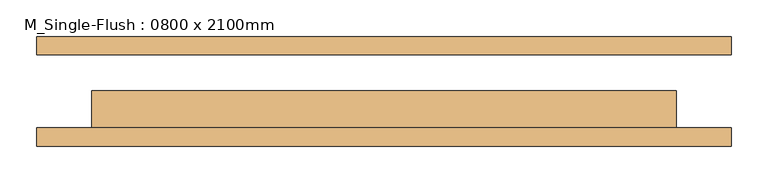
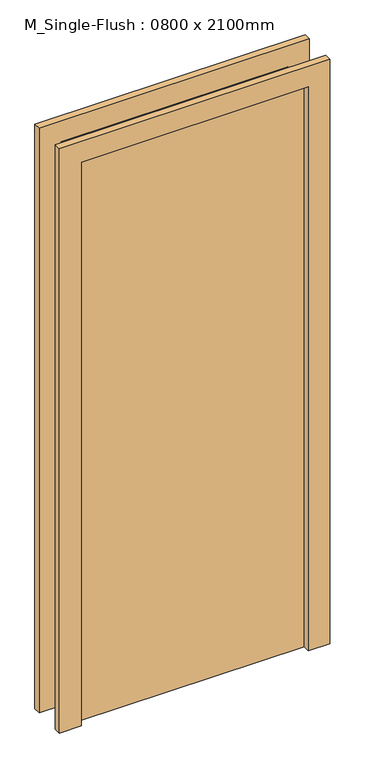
"""IFC4 building model written with IfcOpenShell, lengths in millimetres: door geometry, M_Single-Flush : 0800 x 2100mm."""

import ifcopenshell
import ifcopenshell.guid

model = None  # the IFC model being written
_history = None  # IfcOwnerHistory: only IFC2X3 demands one
_inside = {}  # id of a spatial element -> (the spatial element, [elements in it])
_under = {}  # id of a project, library or spatial element -> (it, [spatial elements below it])
_declared = {}  # id of a project -> (the project, [libraries it declares])
_typed = {}  # id of a type object -> (the type object, [elements of that type])
_made_of = {}  # id of a material, layer set ... -> (it, [elements and type objects made of it])


def new_model(schema):
    """Start an empty IFC model of exactly this schema.

    Asked for "IFC4X3", IfcOpenShell would pick the latest addendum, in which some entities
    have other attributes; the version numbers below select the first issue.
    IFC2X3 requires an IfcOwnerHistory on every rooted entity: one is made here for all.
    """
    global model, _history
    if schema == "IFC4X3":
        model = ifcopenshell.file(schema_version=(4, 3, 0, 0))
    else:
        model = ifcopenshell.file(schema=schema)
    _inside.clear()
    _under.clear()
    _declared.clear()
    _typed.clear()
    _made_of.clear()
    _history = None
    if model.schema == "IFC2X3":
        org = make("IfcOrganization", Name="unknown")
        user = make(
            "IfcPersonAndOrganization",
            ThePerson=make("IfcPerson", FamilyName="unknown"),
            TheOrganization=org,
        )
        app = make(
            "IfcApplication",
            ApplicationDeveloper=org,
            Version="unknown",
            ApplicationFullName="unknown",
            ApplicationIdentifier="unknown",
        )
        _history = make(
            "IfcOwnerHistory",
            OwningUser=user,
            OwningApplication=app,
            ChangeAction="ADDED",
            CreationDate=0,
        )
    return model


def make(cls, **values):
    """One entity of the class cls with the attributes given. An attribute that is None is left unset."""
    return model.create_entity(
        cls, **{name: value for name, value in values.items() if value is not None}
    )


def rooted(cls, **values):
    """An entity with a GlobalId (a new one), such as an element, a storey or a relation."""
    return make(cls, GlobalId=ifcopenshell.guid.new(), OwnerHistory=_history, **values)


def si_unit(unit_type, name, prefix=None):
    """IfcSIUnit, for example si_unit("LENGTHUNIT", "METRE", prefix="MILLI")."""
    return make("IfcSIUnit", UnitType=unit_type, Prefix=prefix, Name=name)


def assignment(units):
    """IfcUnitAssignment: the units of a project."""
    return None if units is None else make("IfcUnitAssignment", Units=units)


def point(xyz):
    """IfcCartesianPoint."""
    return None if xyz is None else make("IfcCartesianPoint", Coordinates=xyz)


def direction(xyz):
    """IfcDirection."""
    return None if xyz is None else make("IfcDirection", DirectionRatios=xyz)


def frame(location, z_axis=None, x_axis=None):
    """IfcAxis2Placement3D, a coordinate frame: its origin and axes. An axis left out is left unset."""
    return make(
        "IfcAxis2Placement3D",
        Location=point(location),
        Axis=direction(z_axis),
        RefDirection=direction(x_axis),
    )


def origin():
    """The frame at (0, 0, 0) with its axes left unset."""
    return frame((0.0, 0.0, 0.0))


def origin_with_axes():
    """The frame at (0, 0, 0) with the z axis (0, 0, 1) and the x axis (1, 0, 0) written out."""
    return frame((0.0, 0.0, 0.0), z_axis=(0.0, 0.0, 1.0), x_axis=(1.0, 0.0, 0.0))


def place(relative_to, where):
    """IfcLocalPlacement: puts the frame where relative to a parent placement (None: the world)."""
    return make(
        "IfcLocalPlacement", PlacementRelTo=relative_to, RelativePlacement=where
    )


def context(
    kind, dimensions, precision=None, world=None, true_north=None, identifier=None
):
    """IfcGeometricRepresentationContext, for example the 3D "Model" context."""
    return make(
        "IfcGeometricRepresentationContext",
        ContextIdentifier=identifier,
        ContextType=kind,
        CoordinateSpaceDimension=dimensions,
        Precision=precision,
        WorldCoordinateSystem=world,
        TrueNorth=true_north,
    )


def project(units=None, contexts=None):
    """IfcProject with its units and contexts."""
    return rooted(
        "IfcProject",
        Name="project",
        RepresentationContexts=contexts,
        UnitsInContext=assignment(units),
    )


def spatial(cls, under=None, at=None, **own):
    """A site, building, storey or space (cls), placed at a placement, below another one or the project."""
    s = rooted(cls, ObjectPlacement=at, **own)
    if under is not None:
        _under.setdefault(under.id(), (under, []))[1].append(s)
    return s


def polyline(points):
    """IfcPolyline through the points."""
    return make("IfcPolyline", Points=[point(p) for p in points])


def outline(outer, holes=None, kind="AREA"):
    """IfcArbitraryClosedProfileDef: a profile drawn as a closed curve; with holes, ...WithVoids."""
    if holes is None:
        return make("IfcArbitraryClosedProfileDef", ProfileType=kind, OuterCurve=outer)
    return make(
        "IfcArbitraryProfileDefWithVoids",
        ProfileType=kind,
        OuterCurve=outer,
        InnerCurves=holes,
    )


def extrude(swept, where, along, depth):
    """IfcExtrudedAreaSolid: the profile swept, set in the frame where, extruded along a direction by depth."""
    return make(
        "IfcExtrudedAreaSolid",
        SweptArea=swept,
        Position=where,
        ExtrudedDirection=direction(along),
        Depth=depth,
    )


def shape(context_of_items, identifier, shape_type, items):
    """IfcShapeRepresentation: the items that make up one representation, for example the "Body"."""
    return make(
        "IfcShapeRepresentation",
        ContextOfItems=context_of_items,
        RepresentationIdentifier=identifier,
        RepresentationType=shape_type,
        Items=items,
    )


def source(mapping_origin, context_of_items, identifier, shape_type, items):
    """IfcRepresentationMap: a shape defined once, which mapped items show again and again."""
    return make(
        "IfcRepresentationMap",
        MappingOrigin=mapping_origin,
        MappedRepresentation=shape(context_of_items, identifier, shape_type, items),
    )


def transform(
    local_origin,
    x_axis=None,
    y_axis=None,
    z_axis=None,
    scale=None,
    scale2=None,
    scale3=None,
    uniform=True,
):
    """IfcCartesianTransformationOperator3D, or its non-uniform kind. x_axis, y_axis, z_axis: its Axis1, 2, 3."""
    if uniform:
        return make(
            "IfcCartesianTransformationOperator3D",
            Axis1=direction(x_axis),
            Axis2=direction(y_axis),
            LocalOrigin=point(local_origin),
            Scale=scale,
            Axis3=direction(z_axis),
        )
    return make(
        "IfcCartesianTransformationOperator3DnonUniform",
        Axis1=direction(x_axis),
        Axis2=direction(y_axis),
        LocalOrigin=point(local_origin),
        Scale=scale,
        Axis3=direction(z_axis),
        Scale2=scale2,
        Scale3=scale3,
    )


def mapped(mapping_source, mapping_target):
    """IfcMappedItem: shows the shape of a source again, moved by a transform."""
    return make(
        "IfcMappedItem", MappingSource=mapping_source, MappingTarget=mapping_target
    )


def made_of(thing, what):
    """Note that an element or type object is made of a material, layer set ...; save() writes the relation."""
    if what is not None:
        _made_of.setdefault(what.id(), (what, []))[1].append(thing)
    return thing


def element(
    cls,
    number,
    at=None,
    inside=None,
    cuts=None,
    type_object=None,
    material=None,
    context=None,
    identifier="Body",
    shape_type=None,
    held_by="IfcProductDefinitionShape",
    body=None,
    shapes=None,
    **own,
):
    """One element of the class cls, such as IfcWall. Its Tag is "e" and its number.

    at: its placement. inside: the storey or other place that contains it. cuts: it is an
    opening in that element (IfcRelVoidsElement). A single representation is given by context,
    identifier, shape_type and body (its items); several are given by shapes. held_by: the class
    of the entity that holds the representations. save() writes the other relations.
    """
    e = rooted(cls, Tag="e%d" % number, ObjectPlacement=at, **own)
    if body is not None:
        shapes = [shape(context, identifier, shape_type, body)]
    if shapes is not None:
        e.Representation = make(held_by, Representations=shapes)
    if inside is not None:
        _inside.setdefault(inside.id(), (inside, []))[1].append(e)
    if cuts is not None:
        rooted(
            "IfcRelVoidsElement", RelatingBuildingElement=cuts, RelatedOpeningElement=e
        )
    if type_object is not None:
        _typed.setdefault(type_object.id(), (type_object, []))[1].append(e)
    return made_of(e, material)


def aggregate(whole, parts):
    """IfcRelAggregates: a whole, such as a stair, and the parts it consists of."""
    return rooted("IfcRelAggregates", RelatingObject=whole, RelatedObjects=parts)


def save(model, path):
    """Write the relations noted so far, then the file.

    IfcRelAggregates (storeys below a building ...), IfcRelContainedInSpatialStructure (elements
    in a storey), IfcRelDefinesByType, IfcRelAssociatesMaterial and IfcRelDeclares: one each for
    every whole, place, type object, material and project.
    """
    for whole, parts in _under.values():
        aggregate(whole, parts)
    for where, things in _inside.values():
        rooted(
            "IfcRelContainedInSpatialStructure",
            RelatedElements=things,
            RelatingStructure=where,
        )
    for kind, things in _typed.values():
        rooted("IfcRelDefinesByType", RelatedObjects=things, RelatingType=kind)
    for what, things in _made_of.values():
        rooted("IfcRelAssociatesMaterial", RelatedObjects=things, RelatingMaterial=what)
    for by, libraries in _declared.values():
        rooted("IfcRelDeclares", RelatingContext=by, RelatedDefinitions=libraries)
    model.write(path)


def m_single_flush_0800_x_2100mm_e1c1bfab(model_context):
    return source(origin(), model_context, "Body", "SweptSolid", [
        extrude(outline(polyline([(2176.0, -476.0), (0.0, -476.0), (0.0, -400.0), (2100.0, -400.0), (2100.0, 400.0), (0.0, 400.0), (0.0, 476.0), (2176.0, 476.0), (2176.0, -476.0)])), frame((0.0, -75.0, 0.0), z_axis=(0.0, 1.0, 0.0), x_axis=(0.0, 0.0, 1.0)), (0.0, 0.0, 1.0), 25.0),
        extrude(outline(polyline([(2176.0, 476.0), (2176.0, -476.0), (0.0, -476.0), (0.0, -400.0), (2100.0, -400.0), (2100.0, 400.0), (0.0, 400.0), (0.0, 476.0), (2176.0, 476.0)])), frame((0.0, 50.0, 0.0), z_axis=(0.0, 1.0, 0.0), x_axis=(0.0, 0.0, 1.0)), (0.0, 0.0, 1.0), 25.0),
        extrude(outline(polyline([(400.0, 1.0), (400.0, -50.0), (-400.0, -50.0), (-400.0, 1.0), (400.0, 1.0)])), origin_with_axes(), (0.0, 0.0, 1.0), 2100.0),
    ])


if __name__ == "__main__":
    model = new_model("IFC4")
    model_context = context("Model", 3, world=origin())
    ifc_project = project(units=[si_unit("LENGTHUNIT", "METRE", prefix="MILLI")], contexts=[model_context])
    site = spatial("IfcSite", under=ifc_project)
    building = spatial("IfcBuilding", under=site)
    placement = place(None, origin())
    m_single_flush_0800_x_2100mm_shape = m_single_flush_0800_x_2100mm_e1c1bfab(model_context)
    element("IfcDoor", 1, ObjectType="M_Single-Flush : 0800 x 2100mm", at=placement, inside=building, context=model_context, shape_type="MappedRepresentation", body=[
        mapped(m_single_flush_0800_x_2100mm_shape, transform((0.0, 0.0, 0.0), x_axis=(1.0, 0.0, 0.0), y_axis=(0.0, 1.0, 0.0), z_axis=(0.0, 0.0, 1.0))),
    ])
    save(model, "model.ifc")
